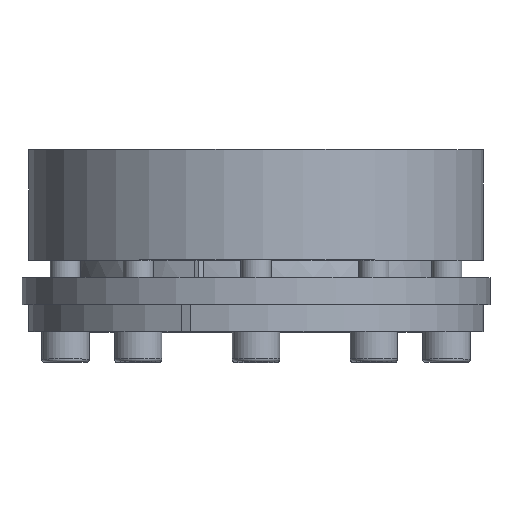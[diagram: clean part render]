
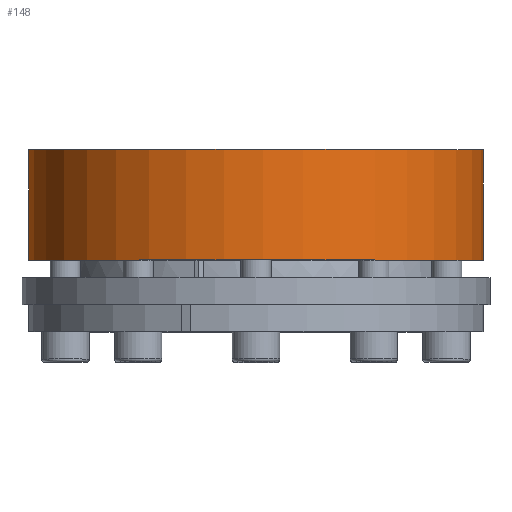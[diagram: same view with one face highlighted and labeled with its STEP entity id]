
A CAD part, top view. The second image highlights one B-rep face of the part: STEP entity #148.
In plain terms, the highlighted cylindrical face has radius 105 mm (diameter 210 mm), a partial arc.
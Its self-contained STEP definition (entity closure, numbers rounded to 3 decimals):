
#148 = ADVANCED_FACE( '', ( #339 ), #340, .T. );
#339 = FACE_OUTER_BOUND( '', #561, .T. );
#340 = CYLINDRICAL_SURFACE( '', #562, 105. );
#561 = EDGE_LOOP( '', ( #958, #959, #960, #961 ) );
#562 = AXIS2_PLACEMENT_3D( '', #962, #963, #964 );
#958 = ORIENTED_EDGE( '', *, *, #1270, .F. );
#959 = ORIENTED_EDGE( '', *, *, #1238, .T. );
#960 = ORIENTED_EDGE( '', *, *, #1206, .T. );
#961 = ORIENTED_EDGE( '', *, *, #1258, .F. );
#962 = CARTESIAN_POINT( '', ( 0., -60., 0. ) );
#963 = DIRECTION( '', ( 0., 1., 0. ) );
#964 = DIRECTION( '', ( 0., 0., -1. ) );
#1206 = EDGE_CURVE( '', #1471, #1472, #1473, .T. );
#1238 = EDGE_CURVE( '', #1517, #1471, #1520, .F. );
#1258 = EDGE_CURVE( '', #1549, #1472, #1550, .F. );
#1270 = EDGE_CURVE( '', #1517, #1549, #1563, .T. );
#1471 = VERTEX_POINT( '', #1873 );
#1472 = VERTEX_POINT( '', #1874 );
#1473 = CIRCLE( '', #1875, 105. );
#1517 = VERTEX_POINT( '', #1930 );
#1520 = LINE( '', #1937, #1938 );
#1549 = VERTEX_POINT( '', #1971 );
#1550 = LINE( '', #1972, #1973 );
#1563 = CIRCLE( '', #1994, 105. );
#1873 = CARTESIAN_POINT( '', ( 34.438, 84., -99.192 ) );
#1874 = CARTESIAN_POINT( '', ( 30.443, 84., -100.49 ) );
#1875 = AXIS2_PLACEMENT_3D( '', #2199, #2200, #2201 );
#1930 = CARTESIAN_POINT( '', ( 34.438, 33., -99.192 ) );
#1937 = CARTESIAN_POINT( '', ( 34.438, -60., -99.192 ) );
#1938 = VECTOR( '', #2238, 1000. );
#1971 = CARTESIAN_POINT( '', ( 30.443, 33., -100.49 ) );
#1972 = CARTESIAN_POINT( '', ( 30.443, -60., -100.49 ) );
#1973 = VECTOR( '', #2270, 1000. );
#1994 = AXIS2_PLACEMENT_3D( '', #2276, #2277, #2278 );
#2199 = CARTESIAN_POINT( '', ( 0., 84., 0. ) );
#2200 = DIRECTION( '', ( 0., -1., 0. ) );
#2201 = DIRECTION( '', ( 0., 0., -1. ) );
#2238 = DIRECTION( '', ( 0., -1., 0. ) );
#2270 = DIRECTION( '', ( 0., -1., 0. ) );
#2276 = CARTESIAN_POINT( '', ( 0., 33., 0. ) );
#2277 = DIRECTION( '', ( 0., -1., 0. ) );
#2278 = DIRECTION( '', ( 0., 0., -1. ) );
